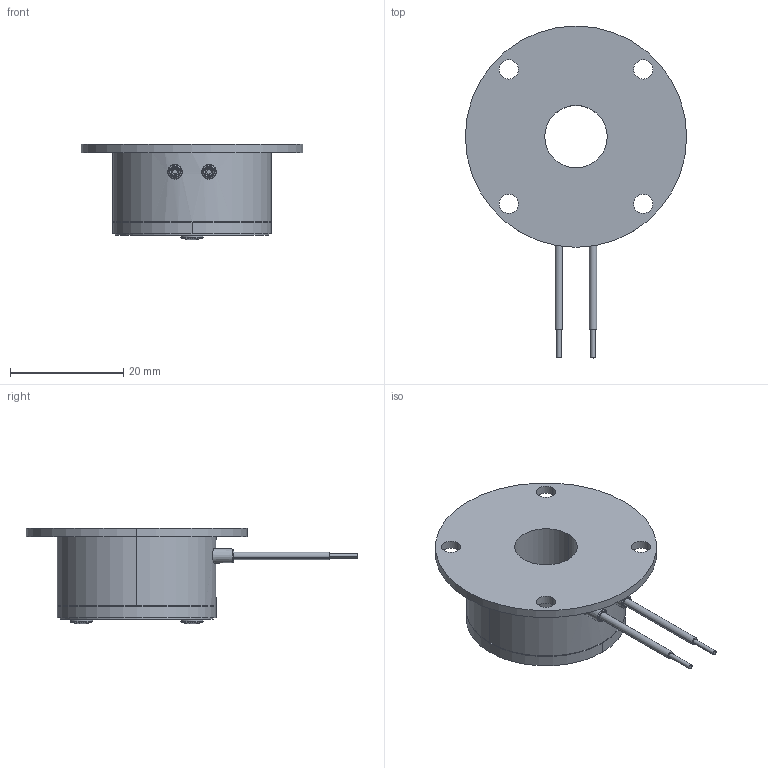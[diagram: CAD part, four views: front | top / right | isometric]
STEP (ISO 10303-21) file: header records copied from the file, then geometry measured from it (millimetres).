
FILE_DESCRIPTION (( 'STEP AP214' ), '1' );
FILE_NAME ('dr_bk_0102-110_mu.STEP', '2026-09-10T06:33:41', ( '' ), ( '' ), 'SwSTEP 2.0', 'SolidWorks 2025', '' );
FILE_SCHEMA (( 'AUTOMOTIVE_DESIGN' ));
Length unit declared in the file: millimetre
Products named in the file (7): 10068720_000; dr_bk_0102-110_mu; 10068722_000; 10068721_000; 10068718_000_Einbaulänge 1,35mm; 10068678_000; 10068719_000
Assembly tree (8 placements, depth 3):
  dr_bk_0102-110_mu
    10068678_000
    10068719_000
      10068720_000
      10068721_000
      10068718_000_Einbaulänge 1,35mm  x2
      10068722_000  x2
Bounding box: 39 x 58.5 x 16.9 mm (x, y, z)
Volume: 9086.7 mm3; surface area: 6543.2 mm2
Topology: 9 solids, 9 shells, 145 faces, 322 edges, 200 vertices
Faces by surface type: cylinder 80, cone 28, plane 21, torus 12, sphere 4
Entity records: 4559 total; most frequent: CARTESIAN_POINT 706, DIRECTION 692, ORIENTED_EDGE 532, AXIS2_PLACEMENT_3D 302, EDGE_CURVE 266, CIRCLE 170, VERTEX_POINT 168, EDGE_LOOP 160
